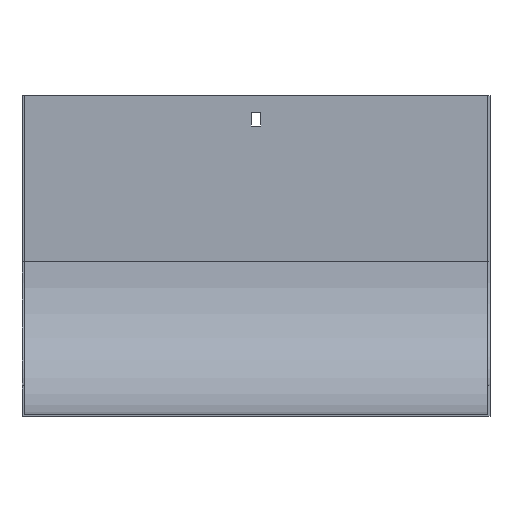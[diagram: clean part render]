
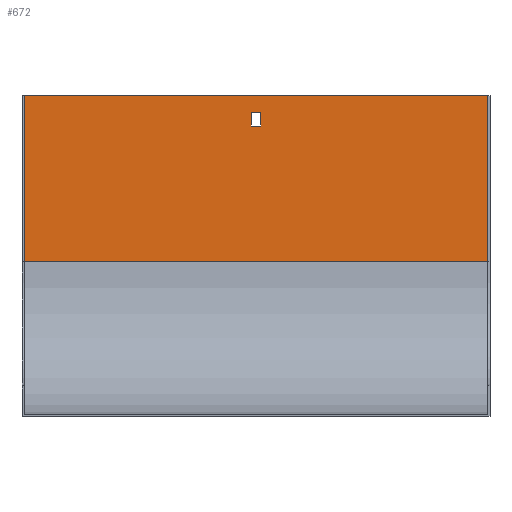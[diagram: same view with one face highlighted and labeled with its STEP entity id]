
A CAD part, front view. The second image highlights one B-rep face of the part: STEP entity #672.
In plain terms, the highlighted planar face has unit normal (0, -1, 0).
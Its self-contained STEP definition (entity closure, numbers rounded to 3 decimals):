
#50 = AXIS2_PLACEMENT_3D ( 'NONE', #585, #850, #579 ) ;
#56 = VERTEX_POINT ( 'NONE', #541 ) ;
#58 = DIRECTION ( 'NONE',  ( 1., 0., 0. ) ) ;
#64 = CARTESIAN_POINT ( 'NONE',  ( 3.25, -1.5, -11. ) ) ;
#76 = EDGE_CURVE ( 'NONE', #861, #303, #145, .T. ) ;
#87 = VERTEX_POINT ( 'NONE', #555 ) ;
#95 = VERTEX_POINT ( 'NONE', #64 ) ;
#99 = VECTOR ( 'NONE', #543, 1000. ) ;
#105 = LINE ( 'NONE', #386, #318 ) ;
#111 = ORIENTED_EDGE ( 'NONE', *, *, #76, .F. ) ;
#118 = ORIENTED_EDGE ( 'NONE', *, *, #197, .F. ) ;
#130 = VERTEX_POINT ( 'NONE', #369 ) ;
#143 = EDGE_CURVE ( 'NONE', #397, #440, #693, .T. ) ;
#145 = LINE ( 'NONE', #485, #330 ) ;
#188 = ORIENTED_EDGE ( 'NONE', *, *, #429, .T. ) ;
#197 = EDGE_CURVE ( 'NONE', #95, #130, #538, .T. ) ;
#198 = CARTESIAN_POINT ( 'NONE',  ( -152., -1.5, 0. ) ) ;
#199 = CARTESIAN_POINT ( 'NONE',  ( 152., -1.5, -109. ) ) ;
#224 = EDGE_CURVE ( 'NONE', #56, #95, #319, .T. ) ;
#252 = CARTESIAN_POINT ( 'NONE',  ( 153.5, -1.5, -20. ) ) ;
#273 = CARTESIAN_POINT ( 'NONE',  ( -152., -1.5, -109. ) ) ;
#280 = VECTOR ( 'NONE', #681, 1000. ) ;
#303 = VERTEX_POINT ( 'NONE', #273 ) ;
#305 = DIRECTION ( 'NONE',  ( 0., 0., 1. ) ) ;
#310 = DIRECTION ( 'NONE',  ( -1., 0., 0. ) ) ;
#312 = FACE_BOUND ( 'NONE', #356, .T. ) ;
#318 = VECTOR ( 'NONE', #729, 1000. ) ;
#319 = LINE ( 'NONE', #848, #844 ) ;
#330 = VECTOR ( 'NONE', #608, 1000. ) ;
#355 = DIRECTION ( 'NONE',  ( -1., 0., 0. ) ) ;
#356 = EDGE_LOOP ( 'NONE', ( #490, #118, #762, #749 ) ) ;
#362 = VECTOR ( 'NONE', #310, 1000. ) ;
#369 = CARTESIAN_POINT ( 'NONE',  ( -3.25, -1.5, -11. ) ) ;
#386 = CARTESIAN_POINT ( 'NONE',  ( -152., -1.5, -109. ) ) ;
#397 = VERTEX_POINT ( 'NONE', #504 ) ;
#429 = EDGE_CURVE ( 'NONE', #861, #397, #840, .T. ) ;
#440 = VERTEX_POINT ( 'NONE', #198 ) ;
#463 = CARTESIAN_POINT ( 'NONE',  ( 152., -1.5, -109. ) ) ;
#483 = LINE ( 'NONE', #809, #280 ) ;
#485 = CARTESIAN_POINT ( 'NONE',  ( 153.5, -1.5, -109. ) ) ;
#490 = ORIENTED_EDGE ( 'NONE', *, *, #526, .F. ) ;
#497 = EDGE_CURVE ( 'NONE', #87, #56, #659, .T. ) ;
#504 = CARTESIAN_POINT ( 'NONE',  ( 152., -1.5, 0. ) ) ;
#520 = EDGE_LOOP ( 'NONE', ( #849, #111, #188, #613 ) ) ;
#526 = EDGE_CURVE ( 'NONE', #130, #87, #483, .T. ) ;
#538 = LINE ( 'NONE', #647, #362 ) ;
#541 = CARTESIAN_POINT ( 'NONE',  ( 3.25, -1.5, -20. ) ) ;
#543 = DIRECTION ( 'NONE',  ( 0., 0., 1. ) ) ;
#555 = CARTESIAN_POINT ( 'NONE',  ( -3.25, -1.5, -20. ) ) ;
#570 = VECTOR ( 'NONE', #58, 1000. ) ;
#579 = DIRECTION ( 'NONE',  ( 0., 0., -1. ) ) ;
#585 = CARTESIAN_POINT ( 'NONE',  ( 153.5, -1.5, 0. ) ) ;
#608 = DIRECTION ( 'NONE',  ( -1., 0., 0. ) ) ;
#613 = ORIENTED_EDGE ( 'NONE', *, *, #143, .T. ) ;
#647 = CARTESIAN_POINT ( 'NONE',  ( 153.5, -1.5, -11. ) ) ;
#659 = LINE ( 'NONE', #252, #570 ) ;
#672 = ADVANCED_FACE ( 'NONE', ( #312, #798 ), #725, .T. ) ;
#681 = DIRECTION ( 'NONE',  ( 0., 0., -1. ) ) ;
#693 = LINE ( 'NONE', #771, #708 ) ;
#708 = VECTOR ( 'NONE', #355, 1000. ) ;
#725 = PLANE ( 'NONE',  #50 ) ;
#729 = DIRECTION ( 'NONE',  ( 0., 0., 1. ) ) ;
#749 = ORIENTED_EDGE ( 'NONE', *, *, #497, .F. ) ;
#762 = ORIENTED_EDGE ( 'NONE', *, *, #224, .F. ) ;
#771 = CARTESIAN_POINT ( 'NONE',  ( 153.5, -1.5, 0. ) ) ;
#798 = FACE_OUTER_BOUND ( 'NONE', #520, .T. ) ;
#809 = CARTESIAN_POINT ( 'NONE',  ( -3.25, -1.5, 0. ) ) ;
#817 = EDGE_CURVE ( 'NONE', #303, #440, #105, .T. ) ;
#840 = LINE ( 'NONE', #463, #99 ) ;
#844 = VECTOR ( 'NONE', #305, 1000. ) ;
#848 = CARTESIAN_POINT ( 'NONE',  ( 3.25, -1.5, 0. ) ) ;
#849 = ORIENTED_EDGE ( 'NONE', *, *, #817, .F. ) ;
#850 = DIRECTION ( 'NONE',  ( 0., -1., 0. ) ) ;
#861 = VERTEX_POINT ( 'NONE', #199 ) ;
